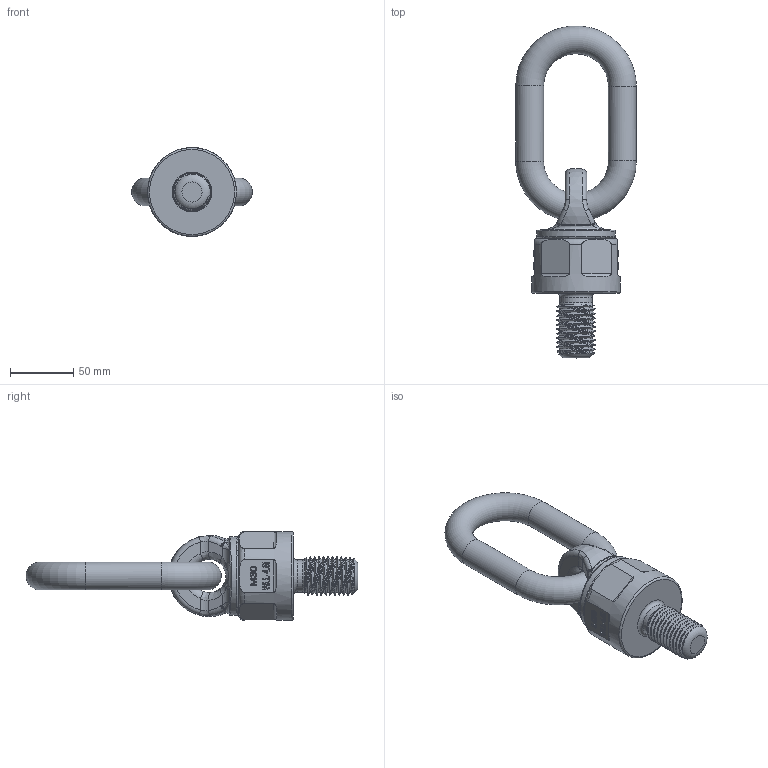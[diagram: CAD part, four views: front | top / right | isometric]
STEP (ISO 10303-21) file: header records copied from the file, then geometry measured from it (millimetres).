
FILE_DESCRIPTION(/* description */ (''),/* implementation_level */ '2;1');
FILE_NAME(/* name */ 'YTJ-M30.stp',/* time_stamp */ '2025-04-02T11:16:09+08:00',/* author */ (''),/* organization */ (''),/* preprocessor_version */ 'ST-DEVELOPER v16',/* originating_system */ 'SIEMENS PLM Software NX 10.0',/* authorisation */ '');
FILE_SCHEMA (('AP203_CONFIGURATION_CONTROLLED_3D_DESIGN_OF_MECHANICAL_PARTS_AND_ASSEMBLIES_MIM_LF { 1 0 10303 403 2 1 2}'));
Length unit declared in the file: millimetre
Products named in the file (1): Admi177C9AD32i8k
Bounding box: 95 x 261.58 x 70 mm (x, y, z)
Volume: 380608.5 mm3; surface area: 65751.2 mm2
Topology: 3 solids, 3 shells, 281 faces, 714 edges, 455 vertices
Faces by surface type: plane 136, bspline 48, extrusion 44, torus 26, cylinder 23, cone 3, sphere 1
Full cylindrical faces by diameter (mm): 22 x2, 25.4 x1, 32 x1, 32.2 x1, 62 x1, 70 x1
Entity records: 12227 total; most frequent: CARTESIAN_POINT 6077, ORIENTED_EDGE 1364, DIRECTION 1010, EDGE_CURVE 682, VERTEX_POINT 445, AXIS2_PLACEMENT_3D 343, VECTOR 324, EDGE_LOOP 321
